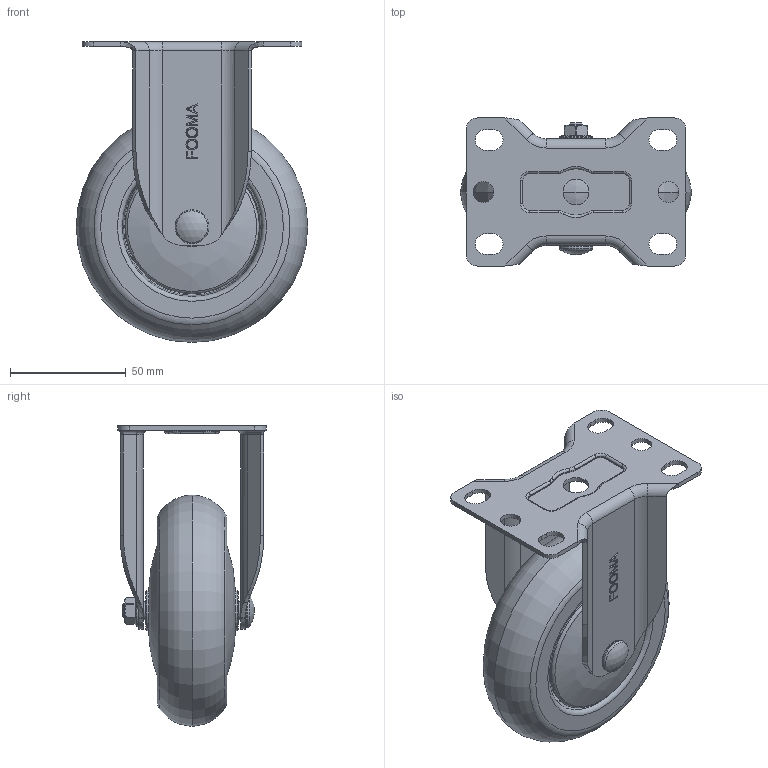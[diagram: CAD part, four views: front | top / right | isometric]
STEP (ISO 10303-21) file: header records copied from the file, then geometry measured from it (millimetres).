
FILE_DESCRIPTION(/* description */ (''),/* implementation_level */ '2;1');
FILE_NAME(/* name */ 'E:\홈피용도면\\X2\C2E0ADDCD648D398C774C9C0C6A9B3C4BA74\X0\\무소음캐스터\20160225-\X2\BB34C18CC74CCE90C2A4D130\X0\\GL-100-ARF.stp',/* time_stamp */ '2016-02-25T21:16:58+09:00',/* author */ ('장용하'),/* organization */ (''),/* preprocessor_version */ 'ST-DEVELOPER v15.6',/* originating_system */ 'Autodesk Inventor 2015',/* authorisation */ '');
FILE_SCHEMA (('AUTOMOTIVE_DESIGN { 1 0 10303 214 3 1 1 }'));
Length unit declared in the file: millimetre
Products named in the file (1): GL-100-ARF
Bounding box: 100 x 64 x 130 mm (x, y, z)
Volume: 208228 mm3; surface area: 68705.7 mm2
Topology: 1 solids, 1 shells, 961 faces, 2639 edges, 1720 vertices
Faces by surface type: plane 759, cylinder 86, torus 60, cone 29, bspline 26, sphere 1
Full cylindrical faces by diameter (mm): 6 x1, 8 x2, 9 x2, 11.2 x1, 14 x1, 14.6 x1, 22 x2
Entity records: 30268 total; most frequent: CARTESIAN_POINT 6017, ORIENTED_EDGE 5128, DIRECTION 4704, EDGE_CURVE 2564, LINE 2216, VECTOR 2216, VERTEX_POINT 1716, AXIS2_PLACEMENT_3D 1244
